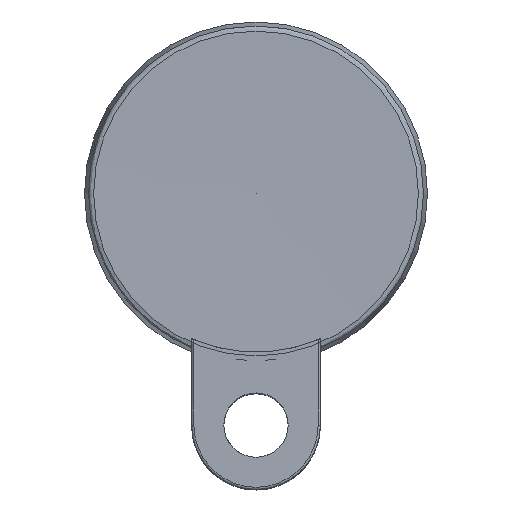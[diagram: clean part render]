
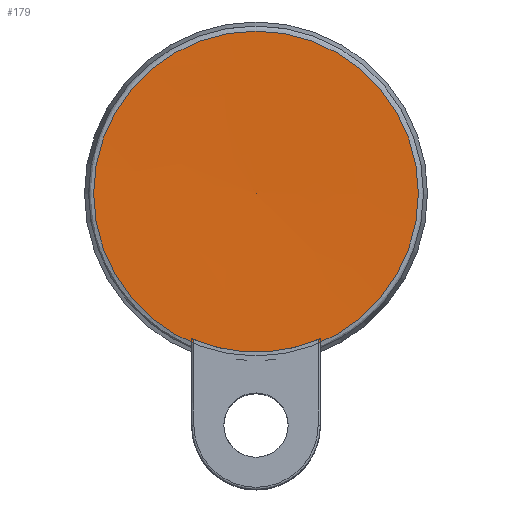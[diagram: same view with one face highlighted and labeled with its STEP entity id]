
A CAD part, front view. The second image highlights one B-rep face of the part: STEP entity #179.
In plain terms, the highlighted free-form (B-spline) face has degree [2, 1] with [9, 2] control points.
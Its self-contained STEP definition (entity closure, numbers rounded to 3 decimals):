
#111=CARTESIAN_POINT('',(1254.336,896.239,0.0));
#112=VERTEX_POINT('',#111);
#120=CARTESIAN_POINT('',(1330.077,896.239,0.0));
#121=VERTEX_POINT('',#120);
#122=CARTESIAN_POINT('',(1292.206,896.239,0.0));
#123=DIRECTION('',(0.0,-1.0,0.0));
#124=DIRECTION('',(-1.0,0.0,0.0));
#125=AXIS2_PLACEMENT_3D('',#122,#123,#124);
#126=CIRCLE('',#125,37.87);
#127=EDGE_CURVE('',#121,#112,#126,.T.);
#129=CARTESIAN_POINT('',(1292.206,896.239,0.0));
#130=DIRECTION('',(0.0,-1.0,0.0));
#131=DIRECTION('',(-1.0,0.0,0.0));
#132=AXIS2_PLACEMENT_3D('',#129,#130,#131);
#133=CIRCLE('',#132,37.87);
#134=EDGE_CURVE('',#112,#121,#133,.T.);
#140=CARTESIAN_POINT('',(1254.336,896.239,0.0));
#141=CARTESIAN_POINT('',(1254.336,896.239,-37.87));
#142=CARTESIAN_POINT('',(1292.206,896.239,-37.87));
#143=CARTESIAN_POINT('',(1330.077,896.239,-37.87));
#144=CARTESIAN_POINT('',(1330.077,896.239,0.0));
#145=CARTESIAN_POINT('',(1330.077,896.239,37.87));
#146=CARTESIAN_POINT('',(1292.206,896.239,37.87));
#147=CARTESIAN_POINT('',(1254.336,896.239,37.87));
#148=CARTESIAN_POINT('',(1254.336,896.239,0.0));
#149=CARTESIAN_POINT('',(1292.206,896.739,0.0));
#150=CARTESIAN_POINT('',(1292.206,896.739,0.0));
#151=CARTESIAN_POINT('',(1292.206,896.739,0.0));
#152=CARTESIAN_POINT('',(1292.206,896.739,0.0));
#153=CARTESIAN_POINT('',(1292.206,896.739,0.0));
#154=CARTESIAN_POINT('',(1292.206,896.739,0.0));
#155=CARTESIAN_POINT('',(1292.206,896.739,0.0));
#156=CARTESIAN_POINT('',(1292.206,896.739,0.0));
#157=CARTESIAN_POINT('',(1292.206,896.739,0.0));
#165=(BOUNDED_SURFACE()B_SPLINE_SURFACE(2,1,((#140,#149),(#141,#150),(#142,#151),(#143,#152),(#144,#153),(#145,#154),(#146,#155),(#147,#156),(#148,#157)),.UNSPECIFIED.,.T.,.F.,.U.)B_SPLINE_SURFACE_WITH_KNOTS((3,2,2,2,3),(2,2),(0.0,0.25,0.5,0.75,1.0),(0.,37.874),.UNSPECIFIED.)GEOMETRIC_REPRESENTATION_ITEM()RATIONAL_B_SPLINE_SURFACE(((1.0,1.0),(0.707,0.707),(1.0,1.0),(0.707,0.707),(1.0,1.0),(0.707,0.707),(1.0,1.0),(0.707,0.707),(1.0,1.0)))REPRESENTATION_ITEM('')SURFACE());
#166=ORIENTED_EDGE('',*,*,#134,.T.);
#167=ORIENTED_EDGE('',*,*,#127,.T.);
#168=CARTESIAN_POINT('',(1292.206,896.739,0.0));
#169=VERTEX_POINT('',#168);
#170=CARTESIAN_POINT('',(1254.336,896.239,0.0));
#171=DIRECTION('',(1.,0.013,0.0));
#172=VECTOR('',#171,37.874);
#173=LINE('',#170,#172);
#174=EDGE_CURVE('',#112,#169,#173,.T.);
#175=ORIENTED_EDGE('',*,*,#174,.T.);
#176=ORIENTED_EDGE('',*,*,#174,.F.);
#177=EDGE_LOOP('',(#166,#167,#175,#176));
#178=FACE_OUTER_BOUND('',#177,.T.);
#179=ADVANCED_FACE('',(#178),#165,.T.);
